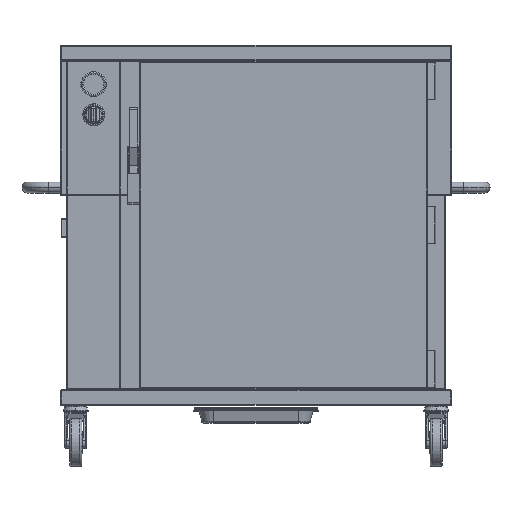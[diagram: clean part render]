
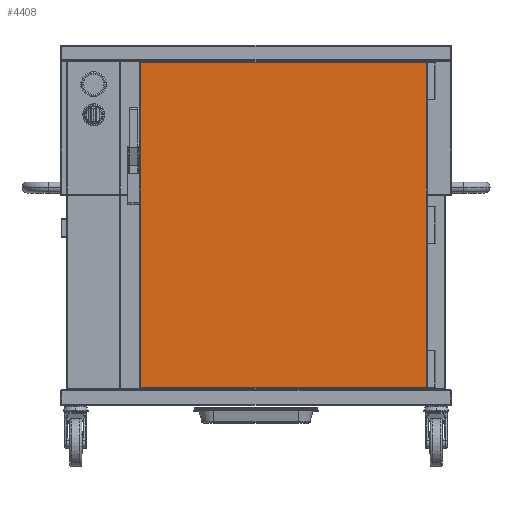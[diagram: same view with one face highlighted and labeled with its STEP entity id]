
A CAD part, top view. The second image highlights one B-rep face of the part: STEP entity #4408.
In plain terms, the highlighted planar face has unit normal (0, 0, 1).
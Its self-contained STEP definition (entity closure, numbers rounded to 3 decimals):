
#2454=DIRECTION('',(0.,-1.,0.));
#2455=VECTOR('',#2454,847.);
#2456=CARTESIAN_POINT('',(-303.,874.,324.5));
#2457=LINE('',#2456,#2455);
#2458=DIRECTION('',(-1.,0.,0.));
#2459=VECTOR('',#2458,748.);
#2460=CARTESIAN_POINT('',(445.,874.,324.5));
#2461=LINE('',#2460,#2459);
#2462=DIRECTION('',(0.,1.,0.));
#2463=VECTOR('',#2462,847.);
#2464=CARTESIAN_POINT('',(445.,27.,324.5));
#2465=LINE('',#2464,#2463);
#2466=DIRECTION('',(1.,0.,0.));
#2467=VECTOR('',#2466,748.);
#2468=CARTESIAN_POINT('',(-303.,27.,324.5));
#2469=LINE('',#2468,#2467);
#3612=CARTESIAN_POINT('',(-303.,874.,324.5));
#3613=CARTESIAN_POINT('',(-303.,27.,324.5));
#3614=VERTEX_POINT('',#3612);
#3615=VERTEX_POINT('',#3613);
#3620=CARTESIAN_POINT('',(445.,27.,324.5));
#3621=VERTEX_POINT('',#3620);
#3650=CARTESIAN_POINT('',(445.,874.,324.5));
#3651=VERTEX_POINT('',#3650);
#4396=CARTESIAN_POINT('',(0.,20.2,324.5));
#4397=DIRECTION('',(0.,0.,1.));
#4398=DIRECTION('',(1.,0.,0.));
#4399=AXIS2_PLACEMENT_3D('',#4396,#4397,#4398);
#4400=PLANE('',#4399);
#4401=ORIENTED_EDGE('',*,*,#4337,.F.);
#4402=ORIENTED_EDGE('',*,*,#4364,.F.);
#4403=ORIENTED_EDGE('',*,*,#4387,.F.);
#4405=ORIENTED_EDGE('',*,*,#4404,.F.);
#4406=EDGE_LOOP('',(#4401,#4402,#4403,#4405));
#4407=FACE_OUTER_BOUND('',#4406,.F.);
#4337=EDGE_CURVE('',#3614,#3615,#2457,.T.);
#4364=EDGE_CURVE('',#3651,#3614,#2461,.T.);
#4387=EDGE_CURVE('',#3621,#3651,#2465,.T.);
#4404=EDGE_CURVE('',#3615,#3621,#2469,.T.);
#4408=ADVANCED_FACE('',(#4407),#4400,.T.);
